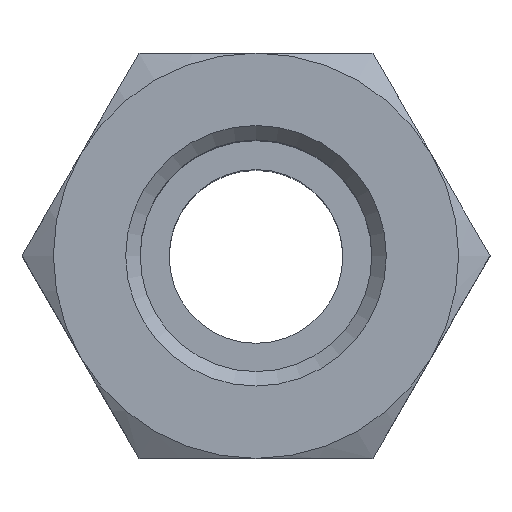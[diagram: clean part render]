
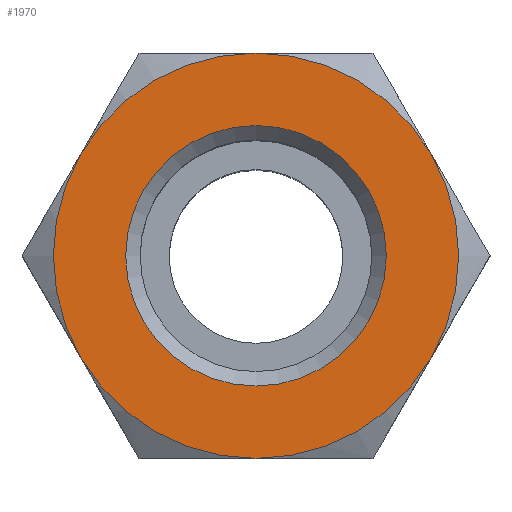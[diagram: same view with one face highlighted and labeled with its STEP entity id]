
A CAD part, top view. The second image highlights one B-rep face of the part: STEP entity #1970.
In plain terms, the highlighted planar face has unit normal (0, 0, 1).
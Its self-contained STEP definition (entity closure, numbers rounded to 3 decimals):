
#1970=ADVANCED_FACE('', (#1980,#1990), #2000, .T.);
#6570=AXIS2_PLACEMENT_3D('Ax2Pl3d', #6580, #6590, #6600);
#6610=AXIS2_PLACEMENT_3D('Ax2Pl3d', #6620, #6630, #6640);
#6650=AXIS2_PLACEMENT_3D('Ax2Pl3d', #6660, #6670, #6680);
#6690=AXIS2_PLACEMENT_3D('Ax2Pl3d', #6700, #6710, #6720);
#6730=AXIS2_PLACEMENT_3D('Ax2Pl3d', #6740, #6750, #6760);
#6770=AXIS2_PLACEMENT_3D('Ax2Pl3d', #6780, #6790, #6800);
#6810=AXIS2_PLACEMENT_3D('Ax2Pl3d', #6820, #6830, #6840);
#6850=AXIS2_PLACEMENT_3D('Ax2Pl3d', #6860, #6870, #6880);
#10630=CARTESIAN_POINT('', (7.434,13.066,33.793));
#10660=CARTESIAN_POINT('', (13.496,16.566,33.793));
#10690=CARTESIAN_POINT('', (19.558,13.066,33.793));
#10720=CARTESIAN_POINT('', (19.558,6.066,33.793));
#10750=CARTESIAN_POINT('', (13.496,2.566,33.793));
#10760=CARTESIAN_POINT('', (7.434,6.066,33.793));
#6580=CARTESIAN_POINT('HicPkt', (13.496,9.566,
33.793));
#6620=CARTESIAN_POINT('HicPkt', (20.496,9.566,
33.793));
#6660=CARTESIAN_POINT('HicPkt', (13.496,9.566,
33.793));
#6700=CARTESIAN_POINT('HicPkt', (13.496,9.566,
33.793));
#6740=CARTESIAN_POINT('HicPkt', (13.496,9.566,
33.793));
#6780=CARTESIAN_POINT('HicPkt', (13.496,9.566,
33.793));
#6820=CARTESIAN_POINT('HicPkt', (13.496,9.566,
33.793));
#6860=CARTESIAN_POINT('HicPkt', (13.496,9.566,
33.793));
#10770=CARTESIAN_POINT('', (13.496,14.066,33.793));
#11260=CIRCLE('Circle', #6570, 7.);
#11270=CIRCLE('Circle', #6650, 7.);
#11280=CIRCLE('Circle', #6690, 7.);
#11290=CIRCLE('Circle', #6730, 7.);
#11300=CIRCLE('Circle', #6770, 7.);
#11310=CIRCLE('Circle', #6810, 7.);
#11320=CIRCLE('Circle', #6850, 4.5);
#6590=DIRECTION('Axis', (0.,0.,-1.));
#6600=DIRECTION('RefDirection', (-1.,-0.,0.));
#6630=DIRECTION('Axis', (0.,0.,1.));
#6640=DIRECTION('RefDirection', (1.,0.,-0.));
#6670=DIRECTION('Axis', (0.,0.,-1.));
#6680=DIRECTION('RefDirection', (-1.,-0.,0.));
#6710=DIRECTION('Axis', (0.,0.,-1.));
#6720=DIRECTION('RefDirection', (-1.,-0.,0.));
#6750=DIRECTION('Axis', (0.,0.,-1.));
#6760=DIRECTION('RefDirection', (-1.,-0.,0.));
#6790=DIRECTION('Axis', (0.,0.,-1.));
#6800=DIRECTION('RefDirection', (-1.,-0.,0.));
#6830=DIRECTION('Axis', (0.,0.,-1.));
#6840=DIRECTION('RefDirection', (-1.,-0.,0.));
#6870=DIRECTION('Axis', (0.,0.,-1.));
#6880=DIRECTION('RefDirection', (-1.,-0.,0.));
#16830=EDGE_CURVE('', #16720, #16780, #11260, .T.);
#16840=EDGE_CURVE('', #16660, #16720, #11270, .T.);
#16850=EDGE_CURVE('', #16600, #16660, #11280, .T.);
#16860=EDGE_CURVE('', #16540, #16600, #11290, .T.);
#16870=EDGE_CURVE('', #16810, #16540, #11300, .T.);
#16880=EDGE_CURVE('', #16780, #16810, #11310, .T.);
#16890=EDGE_CURVE('', #16900, #16900, #11320, .T.);
#19600=EDGE_LOOP('Edge_loop', (#19610,#19620,#19630,#19640,#19650,
#19660));
#19670=EDGE_LOOP('Edge_loop', (#19680));
#1990=FACE_BOUND('', #19670, .T.);
#1980=FACE_OUTER_BOUND('Face_outer_bound', #19600, .T.);
#19610=ORIENTED_EDGE('', *, *, #16830, .F.);
#19620=ORIENTED_EDGE('', *, *, #16840, .F.);
#19630=ORIENTED_EDGE('', *, *, #16850, .F.);
#19640=ORIENTED_EDGE('', *, *, #16860, .F.);
#19650=ORIENTED_EDGE('', *, *, #16870, .F.);
#19660=ORIENTED_EDGE('', *, *, #16880, .F.);
#19680=ORIENTED_EDGE('', *, *, #16890, .T.);
#2000=PLANE('Plane', #6610);
#16540=VERTEX_POINT('', #10630);
#16600=VERTEX_POINT('', #10660);
#16660=VERTEX_POINT('', #10690);
#16720=VERTEX_POINT('', #10720);
#16780=VERTEX_POINT('', #10750);
#16810=VERTEX_POINT('', #10760);
#16900=VERTEX_POINT('', #10770);
